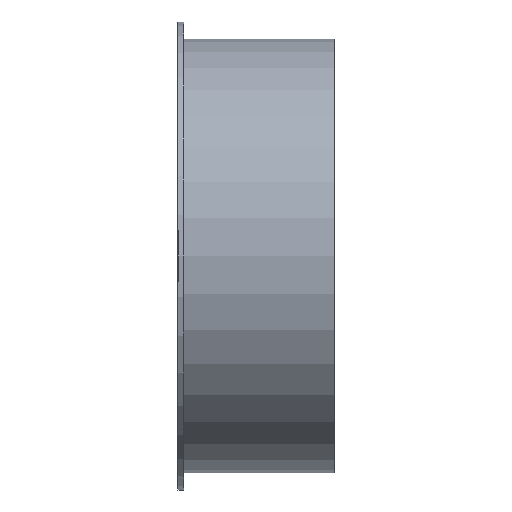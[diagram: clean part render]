
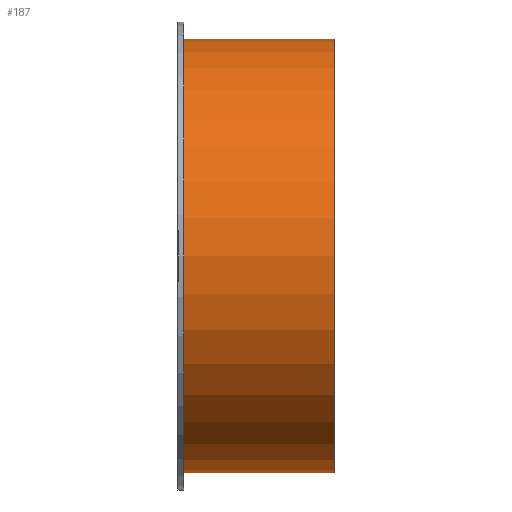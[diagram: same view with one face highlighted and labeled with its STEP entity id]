
A CAD part, front view. The second image highlights one B-rep face of the part: STEP entity #187.
In plain terms, the highlighted cylindrical face has radius 76.5 mm (diameter 153 mm), a full revolution.
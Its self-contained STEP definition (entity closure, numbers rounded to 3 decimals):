
#112=CARTESIAN_POINT('',(-15.,0.,0.0));
#113=VERTEX_POINT('',#112);
#114=CARTESIAN_POINT('',(-15.,76.5,0.0));
#115=DIRECTION('',(-1.0,0.0,0.0));
#116=DIRECTION('',(0.0,-1.0,0.0));
#117=AXIS2_PLACEMENT_3D('',#114,#115,#116);
#118=CIRCLE('',#117,76.5);
#119=EDGE_CURVE('',#113,#113,#118,.T.);
#161=CARTESIAN_POINT('',(38.0,0.,0.0));
#162=VERTEX_POINT('',#161);
#163=CARTESIAN_POINT('',(38.,76.5,0.0));
#164=DIRECTION('',(-1.0,0.0,0.0));
#165=DIRECTION('',(0.0,-1.0,0.0));
#166=AXIS2_PLACEMENT_3D('',#163,#164,#165);
#167=CIRCLE('',#166,76.5);
#168=EDGE_CURVE('',#162,#162,#167,.T.);
#176=CARTESIAN_POINT('',(11.5,76.5,0.0));
#177=DIRECTION('',(-1.0,0.,0.0));
#178=DIRECTION('',(0.0,-1.0,0.0));
#179=AXIS2_PLACEMENT_3D('',#176,#177,#178);
#180=CYLINDRICAL_SURFACE('',#179,76.5);
#181=ORIENTED_EDGE('',*,*,#119,.F.);
#182=EDGE_LOOP('',(#181));
#183=FACE_OUTER_BOUND('',#182,.T.);
#184=ORIENTED_EDGE('',*,*,#168,.T.);
#185=EDGE_LOOP('',(#184));
#186=FACE_BOUND('',#185,.T.);
#187=ADVANCED_FACE('',(#183,#186),#180,.T.);
